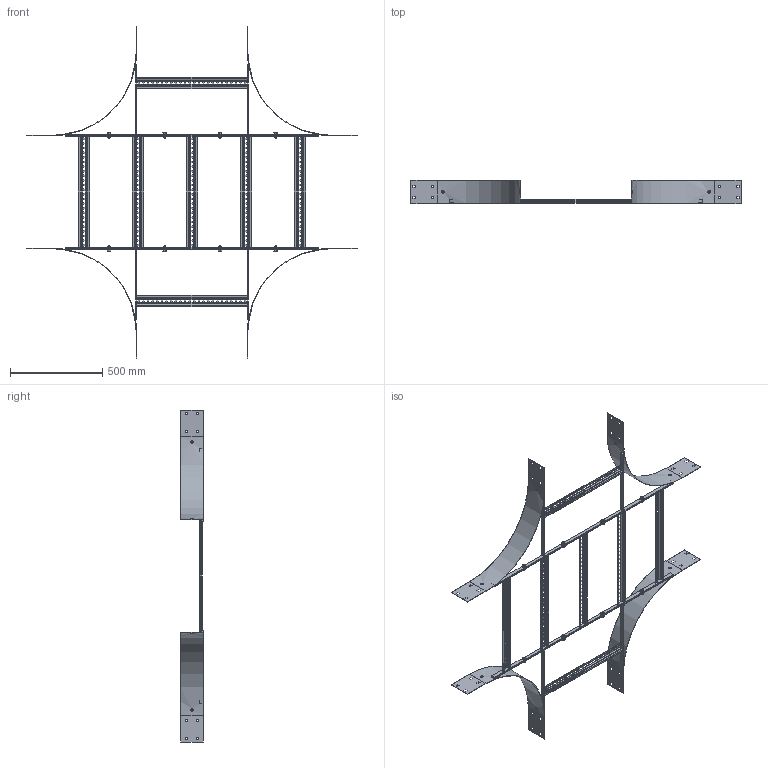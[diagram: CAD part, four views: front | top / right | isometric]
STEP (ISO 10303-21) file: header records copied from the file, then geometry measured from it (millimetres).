
FILE_DESCRIPTION (( 'STEP AP203' ), '1' );
FILE_NAME ('N3 C 6004.STEP', '2024-08-27T04:57:04', ( '' ), ( '' ), 'SwSTEP 2.0', 'SolidWorks 2023', '' );
FILE_SCHEMA (( 'CONFIG_CONTROL_DESIGN' ));
Length unit declared in the file: millimetre
Products named in the file (13): Fascia Kit M10x25_4th position; N3 RADIUS PLATE_N1-450 IR; Washers_M10 washer; CNH M10 Collar Nut_CNH M10 collar nut HDG; Fascia bolt - M10x25_Fascia bolt; N3C6004 horizontal_N3 C; N3 C 6004; Ladder Tee 20x5 Flat Bar_1366; Ladder Tee 20x5 Flat Bar_378; N3C6004 vertical with sides_N3 C; Ladder Rung_Ladder Rung -  600mm
Assembly tree (27 placements, depth 3):
  N3 C 6004
    N3C6004 vertical with sides_N3 C  x2
      Ladder Tee 20x5 Flat Bar_1366
      N3 RADIUS PLATE_N1-450 IR
      Ladder Rung_Ladder Rung -  600mm
      Ladder Tee 20x5 Flat Bar_378
    N3C6004 horizontal_N3 C
      Ladder Rung_Ladder Rung -  600mm  x5
      Ladder Tee 20x5 Flat Bar_1366
      Ladder Tee 20x5 Flat Bar_1366
    Fascia Kit M10x25_4th position  x8
      Fascia bolt - M10x25_Fascia bolt
      Washers_M10 washer
      CNH M10 Collar Nut_CNH M10 collar nut HDG
Bounding box: 1785 x 124 x 1795 mm (x, y, z)
Volume: 2147240 mm3; surface area: 1960102.8 mm2
Topology: 43 solids, 43 shells, 2734 faces, 7312 edges, 4696 vertices
Faces by surface type: plane 2270, cylinder 160, cone 112, bspline 112, torus 64, sphere 16
Entity records: 17110 total; most frequent: CARTESIAN_POINT 4135, ORIENTED_EDGE 2370, DIRECTION 2167, EDGE_CURVE 1185, LINE 933, VECTOR 933, VERTEX_POINT 765, AXIS2_PLACEMENT_3D 617
